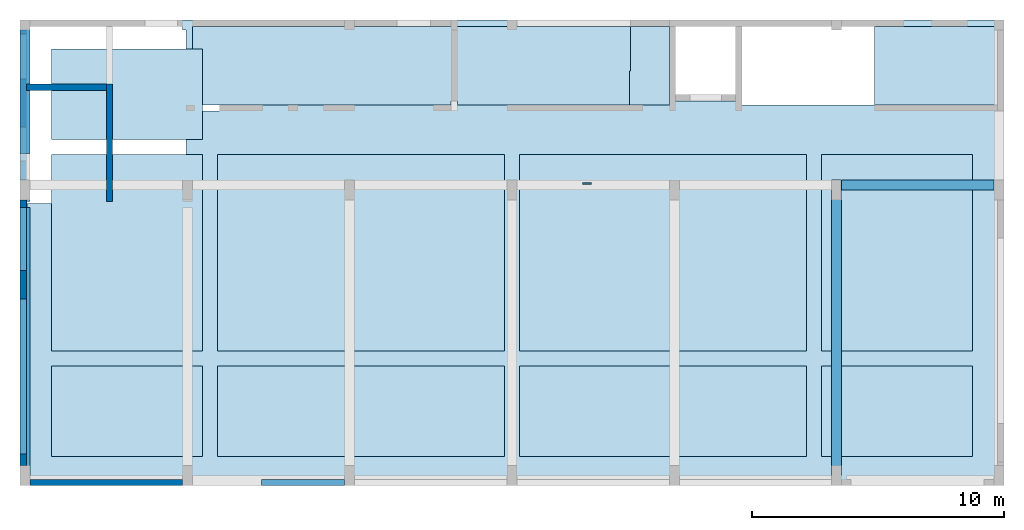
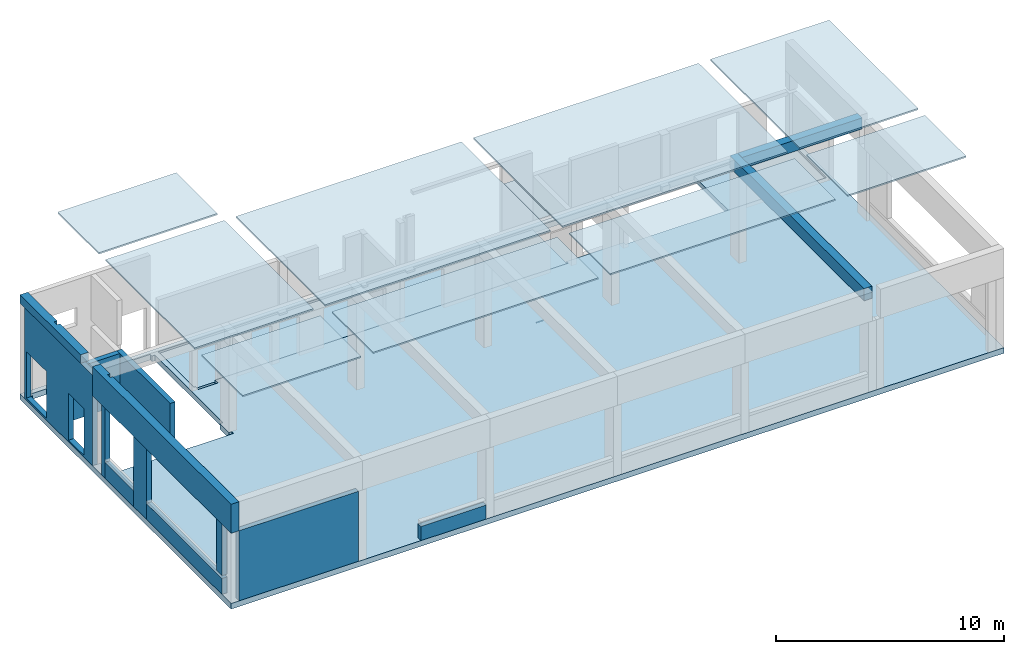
# One storey, part 2 of 3: 13 slabs, 10 walls, 5 beams, 4 openings.
"""IFC2X3 building model written with IfcOpenShell, lengths in centimetres."""

from ifc_helpers import new_model, entity, si_unit, converted_unit, derived_unit, direction, frame, frame_2d, origin, origin_2d_with_axis, place, context, subcontext, project, spatial, polyline, circle_curve, parameter, trimmed, segment, composite_curve, rectangle, outline, extrude, faceted_brep, material, layer, layer_set, layer_usage, type_object, element, save


model = new_model("IFC2X3")

# Units and contexts
model_context = context("Model", 3, precision=0.001, world=origin(), true_north=direction((6.12303176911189e-17, 1.0)))
body_context = subcontext(model_context, "Body", "Model", "MODEL_VIEW")
ifc_project = project(units=[si_unit("LENGTHUNIT", "METRE", prefix="CENTI"), si_unit("AREAUNIT", "SQUARE_METRE"), si_unit("VOLUMEUNIT", "CUBIC_METRE"), converted_unit("PLANEANGLEUNIT", "DEGREE", entity("IfcRatioMeasure", 0.0174532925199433), si_unit("PLANEANGLEUNIT", "RADIAN"), dimensions=[0, 0, 0, 0, 0, 0, 0]), si_unit("MASSUNIT", "GRAM", prefix="KILO"), derived_unit("MASSDENSITYUNIT", [(si_unit("MASSUNIT", "GRAM", prefix="KILO"), 1), (si_unit("LENGTHUNIT", "METRE"), -3)]), derived_unit("MOMENTOFINERTIAUNIT", [(si_unit("LENGTHUNIT", "METRE"), 4)]), si_unit("TIMEUNIT", "SECOND"), si_unit("FREQUENCYUNIT", "HERTZ"), si_unit("THERMODYNAMICTEMPERATUREUNIT", "DEGREE_CELSIUS"), derived_unit("THERMALTRANSMITTANCEUNIT", [(si_unit("MASSUNIT", "GRAM", prefix="KILO"), 1), (si_unit("THERMODYNAMICTEMPERATUREUNIT", "KELVIN"), -1), (si_unit("TIMEUNIT", "SECOND"), -3)]), derived_unit("VOLUMETRICFLOWRATEUNIT", [(si_unit("LENGTHUNIT", "METRE"), 3), (si_unit("TIMEUNIT", "SECOND"), -1)]), si_unit("ELECTRICCURRENTUNIT", "AMPERE"), si_unit("ELECTRICVOLTAGEUNIT", "VOLT"), si_unit("POWERUNIT", "WATT"), si_unit("FORCEUNIT", "NEWTON", prefix="KILO"), si_unit("ILLUMINANCEUNIT", "LUX"), si_unit("LUMINOUSFLUXUNIT", "LUMEN"), si_unit("LUMINOUSINTENSITYUNIT", "CANDELA"), derived_unit("USERDEFINED", [(si_unit("MASSUNIT", "GRAM", prefix="KILO"), -1), (si_unit("LENGTHUNIT", "METRE"), -2), (si_unit("TIMEUNIT", "SECOND"), 3), (si_unit("LUMINOUSFLUXUNIT", "LUMEN"), 1)]), derived_unit("LINEARVELOCITYUNIT", [(si_unit("LENGTHUNIT", "METRE"), 1), (si_unit("TIMEUNIT", "SECOND"), -1)]), si_unit("PRESSUREUNIT", "PASCAL"), derived_unit("USERDEFINED", [(si_unit("LENGTHUNIT", "METRE"), -2), (si_unit("MASSUNIT", "GRAM", prefix="KILO"), 1), (si_unit("TIMEUNIT", "SECOND"), -2)]), derived_unit("LINEARFORCEUNIT", [(si_unit("MASSUNIT", "GRAM", prefix="KILO"), 1), (si_unit("LENGTHUNIT", "METRE"), 1), (si_unit("TIMEUNIT", "SECOND"), -2), (si_unit("LENGTHUNIT", "METRE"), -1)]), derived_unit("PLANARFORCEUNIT", [(si_unit("MASSUNIT", "GRAM", prefix="KILO"), 1), (si_unit("LENGTHUNIT", "METRE"), 1), (si_unit("TIMEUNIT", "SECOND"), -2), (si_unit("LENGTHUNIT", "METRE"), -2)])], contexts=[model_context])

# Site, building, storey
site_placement = place(None, origin())
site = spatial("IfcSite", under=ifc_project, at=site_placement, Name="Default", CompositionType="ELEMENT")
building_placement = place(site_placement, origin())
building = spatial("IfcBuilding", under=site, at=building_placement, CompositionType="ELEMENT")
storey_placement = place(building_placement, frame((0.0, 0.0, -10.0)))
storey = spatial("IfcBuildingStorey", under=building, at=storey_placement, Name="Poziom 0K -0,10", CompositionType="ELEMENT", Elevation=-10.0)

# Beams
ifc_material_1 = material(Name="_Beton, C25/30")
beam_type_1 = type_object("IfcBeamType", Name="Beton-belka prostokątna:Belka żelbetowa 40x65 cm", PredefinedType="BEAM", material=ifc_material_1)
beam_1_placement = place(storey_placement, frame((290.734890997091, 295.127452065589, 475.0), z_axis=(0.0, 0.0, 1.0), x_axis=(0.0, -1.0, 0.0)))
element("IfcBeam", 1, at=beam_1_placement, inside=storey, type_object=beam_type_1, material=ifc_material_1, Name="Beton-belka prostokątna:Belka żelbetowa 40x65 cm", ObjectType="Beton-belka prostokątna:Belka żelbetowa 40x65 cm", context=body_context, shape_type="Brep", body=[
    faceted_brep([(0.0, 40.0, 65.0), (0.0, 20.0000023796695, 65.0), (0.0, 0.0, 65.0), (0.0, 0.0, 0.0), (0.0, 40.0, 0.0), (-1175.0, 0.0, 0.0), (-1175.0, 0.0, 5.0), (-1175.0, 0.0, 65.0), (-1175.0, 37.4999999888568, 65.0), (-1175.0, 37.4999999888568, 0.0), (-1095.0, 40.0, 65.0), (-1095.0, 37.4999999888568, 65.0), (-1135.0, 0.0, 65.0), (-1095.0, 0.0, 65.0), (-1092.50000009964, 0.0, 65.0), (-825.0, 0.0, 65.0), (-822.500000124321, 0.0, 65.0), (-807.500000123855, 0.0, 65.0), (-805.0, 0.0, 65.0), (-1095.0, 0.0, 0.0), (-1092.50000009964, 0.0, 0.0), (-825.0, 0.0, 0.0), (-822.500000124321, 0.0, 0.0), (-807.500000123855, 0.0, 0.0), (-805.0, 0.0, 0.0), (-1095.0, 37.4999999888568, 0.0), (-1095.0, 40.0, 0.0)], [[[0, 1, 2, 3, 4]], [[5, 6, 7, 8, 9]], [[2, 1, 0, 10, 11, 8, 7, 12, 13, 14, 15, 16, 17, 18]], [[3, 2, 18, 17, 16, 15, 14, 13, 12, 7, 6, 5, 19, 20, 21, 22, 23, 24]], [[4, 3, 24, 23, 22, 21, 20, 19, 5, 9, 25, 26]], [[0, 4, 26, 10]], [[11, 25, 9, 8]], [[25, 11, 10, 26]]]),
])
ifc_material_2 = material(Name="_Beton C30/37")
beam_type_2 = type_object("IfcBeamType", Name="Beton-belka prostokątna:Belka żelbetowa 40x155cm", PredefinedType="NOTDEFINED")
beam_2_placement = place(storey_placement, frame((-2934.26510820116, 255.127452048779, 385.0), z_axis=(0.0, 0.0, 1.0), x_axis=(0.0, -1.0, 0.0)))
element("IfcBeam", 2, at=beam_2_placement, inside=storey, type_object=beam_type_2, material=ifc_material_2, Name="Beton-belka prostokątna:Belka żelbetowa 40x155cm", ObjectType="Beton-belka prostokątna:Belka żelbetowa 40x155cm", context=body_context, shape_type="Brep", body=[
    faceted_brep([(0.0, 40.0, 155.0), (0.0, 0.0, 155.0), (0.0, 0.0, 0.0), (0.0, 40.0, 0.0), (-1215.0, 40.0, 155.0), (-1215.0, 40.0, 0.0), (-1215.0, 0.0, 0.0), (-1215.0, 0.0, 155.0), (-40.0, 40.0, 155.0), (-80.0002055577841, 40.0, 155.0), (-82.500205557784, 40.0, 155.0), (-1101.50000029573, 40.0, 155.0), (-1104.0, 40.0, 155.0), (-1104.0, 27.0000015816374, 155.0), (-1129.0, 27.0000015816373, 155.0), (-1129.0, 40.0, 155.0), (-1129.0, 40.0, 0.0), (-1129.0, 27.0000015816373, 0.0), (-1104.0, 27.0000015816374, 0.0), (-1104.0, 40.0, 0.0), (-1101.50000029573, 40.0, 0.0), (-82.5002055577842, 40.0, 0.0), (-80.0002055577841, 40.0, 0.0), (-40.0, 40.0, 0.0)], [[[0, 1, 2, 3]], [[4, 5, 6, 7]], [[1, 0, 8, 9, 10, 11, 12, 13, 14, 15, 4, 7]], [[2, 1, 7, 6]], [[3, 2, 6, 5, 16, 17, 18, 19, 20, 21, 22, 23]], [[0, 3, 23, 22, 21, 20, 19, 12, 11, 10, 9, 8]], [[14, 17, 16, 15]], [[18, 13, 12, 19]], [[17, 14, 13, 18]], [[5, 4, 15, 16]]]),
])
beam_type_3 = type_object("IfcBeamType", Name="Beton-belka prostokątna:BELKA 40x45", PredefinedType="NOTDEFINED")
beam_3_placement = place(storey_placement, frame((-2934.26510657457, 1573.89770327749, 495.0), z_axis=(0.0, 0.0, 1.0), x_axis=(0.0, 1.0, 0.0)))
element("IfcBeam", 3, at=beam_3_placement, inside=storey, type_object=beam_type_3, material=ifc_material_2, Name="Beton-belka prostokątna:BELKA 40x45", ObjectType="Beton-belka prostokątna:BELKA 40x45", context=body_context, shape_type="Brep", body=[
    faceted_brep([(531.229748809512, 0.0, 45.0), (0.0, 0.0, 45.0), (0.0, -40.0, 45.0), (251.273827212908, -40.0, 45.0), (251.273827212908, -25.0000013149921, 45.0), (276.273827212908, -25.000001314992, 45.0), (276.273827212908, -40.0, 45.0), (506.229748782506, -40.0, 45.0), (531.229748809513, -40.0, 45.0), (531.229748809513, -40.0, 0.0), (276.273827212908, -40.0, 0.0), (491.229748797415, -40.0, 0.0), (0.0, 0.0, 0.0), (491.229748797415, 0.0, 0.0), (531.229748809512, 0.0, 0.0), (276.273827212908, -25.000001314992, 0.0), (251.273827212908, -25.0000013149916, 0.0), (251.273827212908, -40.0, 0.0), (0.0, -40.0, 0.0)], [[[0, 1, 2, 3, 4, 5, 6, 7, 8]], [[9, 8, 7, 6, 10, 11]], [[12, 13, 14, 9, 11, 10, 15, 16, 17, 18]], [[1, 0, 14, 13, 12]], [[1, 12, 18, 2]], [[5, 15, 10, 6]], [[16, 4, 3, 17]], [[15, 5, 4, 16]], [[2, 18, 17, 3]], [[0, 8, 9, 14]]]),
])
beam_type_4 = type_object("IfcBeamType", Name="Beton-belka prostokątna:Belka żelbetowa 40x60cm", PredefinedType="NOTDEFINED")
beam_4_placement = place(storey_placement, frame((330.734893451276, 1430.12745208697, 480.0), z_axis=(0.0, 0.0, 1.0), x_axis=(-1.0, 0.0, 0.0)))
element("IfcBeam", 4, at=beam_4_placement, inside=storey, type_object=beam_type_4, material=ifc_material_2, Name="Beton-belka prostokątna:Belka żelbetowa 40x60cm", ObjectType="Beton-belka prostokątna:Belka żelbetowa 40x60cm", context=body_context, shape_type="Brep", body=[
    faceted_brep([(0.0, 0.0, 60.0), (0.0, -40.0, 60.0), (0.0, -40.0, 0.0), (0.0, 0.0, 0.0), (-606.0, 0.0, 60.0), (-606.0, 0.0, 0.0), (-606.0, -20.0, 0.0), (-606.0, -20.0, 60.0), (-602.499986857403, 0.0, 60.0), (-604.999986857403, 0.0, 60.0), (-604.999997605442, -20.0, 60.0), (-604.999997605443, -40.0, 60.0), (-602.499986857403, -40.0, 60.0), (-604.999997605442, -40.0, 0.0), (-602.499986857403, -40.0, 0.0), (-604.999997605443, -20.0, 0.0), (-604.999986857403, 0.0, 0.0), (-602.499986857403, 0.0, 0.0)], [[[0, 1, 2, 3]], [[4, 5, 6, 7]], [[1, 0, 8, 9, 4, 7, 10, 11, 12]], [[2, 1, 12, 11, 13, 14]], [[3, 2, 14, 13, 15, 6, 5, 16, 17]], [[0, 3, 17, 16, 5, 4, 9, 8]], [[15, 10, 7, 6]], [[10, 15, 13, 11]]]),
])
ifc_material_3 = material(Name="Stal konstrukcyjna - S235")
beam_type_5 = type_object("IfcBeamType", Name="Równoramienne L:L80x8", PredefinedType="NOTDEFINED")
beam_5_placement = place(storey_placement, frame((-663.015081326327, 1454.12745207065, 0.0), z_axis=(0.0, 0.0, 1.0), x_axis=(-1.0, 0.0, 0.0)))
element("IfcBeam", 5, at=beam_5_placement, inside=storey, type_object=beam_type_5, material=ifc_material_3, Name="Równoramienne L:L80x8", ObjectType="Równoramienne L:L80x8", context=body_context, shape_type="SweptSolid", body=[
    extrude(outline(composite_curve([segment(polyline([(2.72222222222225, -4.97777777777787), (3.02222222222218, -4.97777777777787)]), True, "CONTINUOUS"), segment(polyline([(3.02222222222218, -4.97777777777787), (3.0222222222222, 3.02222222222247)]), True, "CONTINUOUS"), segment(polyline([(3.0222222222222, 3.02222222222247), (-4.97777777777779, 3.02222222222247)]), True, "CONTINUOUS"), segment(polyline([(-4.9777777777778, 3.02222222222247), (-4.9777777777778, 2.72222222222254)]), True, "CONTINUOUS"), segment(trimmed(circle_curve(frame_2d((-4.47777777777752, 2.72222222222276), x_axis=(-1.0, 0.0)), 0.500000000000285), [parameter(0.0)], [parameter(89.9999999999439)], True, "PARAMETER"), True, "CONTINUOUS"), segment(polyline([(-4.4777777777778, 2.22222222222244), (1.22222222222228, 2.22222222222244)]), True, "CONTINUOUS"), segment(trimmed(circle_curve(frame_2d((1.22222222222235, 1.22222222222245), x_axis=(0.0, 1.0)), 0.999999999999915), [parameter(269.999999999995)], [parameter(0.0)], True, "PARAMETER"), False, "CONTINUOUS"), segment(polyline([(2.22222222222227, 1.22222222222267), (2.22222222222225, -4.47777777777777)]), True, "CONTINUOUS"), segment(trimmed(circle_curve(frame_2d((2.72222222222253, -4.47777777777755), x_axis=(-1.0, 0.0)), 0.500000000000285), [parameter(0.0)], [parameter(89.9999999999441)], True, "PARAMETER"), True, "CONTINUOUS")], self_intersect=False)), frame((0.0, -0.762222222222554, 3.02222222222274), z_axis=(1.0, 0.0, 0.0), x_axis=(0.0, 0.0, -1.0)), (0.0, 0.0, 1.0), 36.0),
])

# Slab
ifc_layer_1 = layer(ifc_material_1, 15.0)
ifc_layer_set_1 = layer_set([ifc_layer_1], Name="Strop:Spocznik gr. 15cm")
ifc_layer_usage_1 = layer_usage(ifc_layer_set_1, "AXIS3", "POSITIVE", 0.0)
slab_type_1 = type_object("IfcSlabType", Name="Strop:Spocznik gr. 15cm", PredefinedType="FLOOR", material=ifc_layer_set_1)
slab_1_placement = place(storey_placement, origin())
element("IfcSlab", 6, at=slab_1_placement, inside=storey, type_object=slab_type_1, material=ifc_layer_usage_1, Name="Strop:Spocznik gr. 15cm", ObjectType="Strop:Spocznik gr. 15cm", PredefinedType="FLOOR", context=body_context, shape_type="SweptSolid", body=[
    extrude(outline(polyline([(-148.999993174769, -54.2423317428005), (-13.9999931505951, -54.2423317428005), (-13.9999931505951, -50.3791504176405), (162.999986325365, -50.3791504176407), (162.999986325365, 104.621482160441), (-148.999993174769, 104.621482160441), (-148.999993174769, -54.2423317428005)])), frame((-458.886594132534, 1917.1274451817, 296.0), z_axis=(0.0, 0.0, -1.0), x_axis=(0.0, 1.0, 0.0)), (0.0, 0.0, 1.0), 15.0),
])

# Slab, openings
ifc_layer_2 = layer(ifc_material_1, 30.0)
ifc_layer_set_2 = layer_set([ifc_layer_2], Name="Strop:Płyta na gruncie gr. 30cm")
ifc_layer_usage_2 = layer_usage(ifc_layer_set_2, "AXIS3", "POSITIVE", 0.0)
slab_type_2 = type_object("IfcSlabType", Name="Strop:Płyta na gruncie gr. 30cm", PredefinedType="FLOOR", material=ifc_layer_set_2)
slab_2_placement = place(storey_placement, frame((-2934.26511017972, 255.127499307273, -20.0)))
slab_2 = element("IfcSlab", 7, at=slab_2_placement, inside=storey, type_object=slab_type_2, material=ifc_layer_usage_2, Name="Strop:Płyta na gruncie gr. 30cm", ObjectType="Strop:Płyta na gruncie gr. 30cm", PredefinedType="FLOOR", context=body_context, shape_type="SweptSolid", body=[
    extrude(rectangle(XDim=1849.99993219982, YDim=3910.00000796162, at=frame_2d((0.0, 0.0), x_axis=(0.0, -1.0))), frame((1955.00000398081, 924.999966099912, 30.0), z_axis=(0.0, 0.0, -1.0), x_axis=(-1.0, 0.0, 0.0)), (0.0, 0.0, 1.0), 30.0),
])
opening_1_placement = place(slab_2_placement, frame((342.500000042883, 1408.12495276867, 30.0)))
element("IfcOpeningElement", 8, at=opening_1_placement, cuts=slab_2, Name="Strop:Płyta na gruncie gr. 30cm:2", ObjectType="Opening", context=body_context, shape_type="SweptSolid", body=[
    extrude(outline(polyline([(-193.124999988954, -317.499995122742), (401.874999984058, -317.499995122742), (401.874999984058, -302.49999875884), (416.874999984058, -302.49999875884), (416.874999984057, 302.500001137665), (401.874999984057, 302.500001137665), (401.874999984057, 317.499985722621), (-193.124999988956, 317.499985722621), (-193.124999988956, 302.500003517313), (-273.124999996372, 302.500003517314), (-273.124999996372, 317.499990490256), (-288.124999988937, 317.499990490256), (-288.124999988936, -317.499993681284), (-273.124999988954, -317.499993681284), (-273.124999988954, -302.499993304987), (-193.124999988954, -302.499993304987), (-193.124999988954, -317.499995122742)])), frame((0.0, 0.0, 0.0), z_axis=(0.0, 0.0, -1.0), x_axis=(0.0, 1.0, 0.0)), (0.0, 0.0, 1.0), 30.0),
])
opening_2_placement = place(slab_2_placement, frame((2122.90001595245, 1715.37093113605, 30.0)))
element("IfcOpeningElement", 9, at=opening_2_placement, cuts=slab_2, Name="Strop:Płyta na gruncie gr. 30cm:3", ObjectType="Opening", context=body_context, shape_type="SweptSolid", body=[
    extrude(outline(polyline([(-202.37097843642, -1437.9000147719), (109.62900106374, -1437.9000147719), (109.629001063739, -832.900014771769), (94.6290216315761, -832.900014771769), (94.6290216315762, -792.900014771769), (109.629001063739, -792.900014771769), (109.629001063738, -410.399899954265), (94.629021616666, -410.399899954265), (94.6290216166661, -385.399995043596), (109.62902017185, -385.399995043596), (109.62902017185, -187.900014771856), (94.6290216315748, -187.900014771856), (94.6290216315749, -147.900014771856), (109.629001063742, -147.900014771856), (109.629001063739, 1102.09998522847), (94.6290216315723, 1102.09998522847), (94.6290216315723, 1142.09998324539), (109.629020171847, 1142.09998324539), (109.629020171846, 1747.09998883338), (94.629021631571, 1747.09998883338), (94.629021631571, 1762.09999200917), (-202.370978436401, 1762.09999200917), (-202.370978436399, 745.600105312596), (-186.806237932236, 745.600105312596), (-186.806237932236, 457.099982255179), (-202.370978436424, 457.099982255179), (-202.37097843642, -1330.40003400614), (-227.370978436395, -1330.40003400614), (-227.370978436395, -1430.40003402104), (-202.37097843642, -1430.40003402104), (-202.37097843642, -1437.9000147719)])), frame((0.0, 0.0, 0.0), z_axis=(0.0, 0.0, -1.0), x_axis=(0.0, 1.0, 0.0)), (0.0, 0.0, 1.0), 30.0),
])

# Slabs
ifc_layer_3 = layer(ifc_material_1, 25.0)
ifc_layer_set_3 = layer_set([ifc_layer_3], Name="Strop:Płyta na gruncie gr. 25cm")
ifc_layer_usage_3 = layer_usage(ifc_layer_set_3, "AXIS3", "POSITIVE", 0.0)
slab_type_3 = type_object("IfcSlabType", Name="Strop:Płyta na gruncie gr. 25cm", PredefinedType="FLOOR", material=ifc_layer_set_3)
slab_3_placement = place(storey_placement, origin())
element("IfcSlab", 10, at=slab_3_placement, inside=storey, type_object=slab_type_3, material=ifc_layer_usage_3, Name="Strop:Płyta na gruncie gr. 25cm", ObjectType="Strop:Płyta na gruncie gr. 25cm", PredefinedType="FLOOR", context=body_context, shape_type="SweptSolid", body=[
    extrude(outline(polyline([(-81.7499996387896, -993.750032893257), (230.249998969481, -993.750032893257), (230.24999896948, 901.249964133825), (-81.7499996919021, 901.249964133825), (-81.7499996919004, 58.7500819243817), (-66.749999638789, 58.7500819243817), (-66.749999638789, 33.74998683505), (-81.7499996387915, 33.74998683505), (-81.7499996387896, -993.750032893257)])), frame((-1255.51507610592, 1849.8774516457, 0.0), z_axis=(0.0, 0.0, -1.0), x_axis=(0.0, 1.0, 0.0)), (0.0, 0.0, 1.0), 25.0),
])
ifc_layer_usage_4 = layer_usage(ifc_layer_set_3, "AXIS3", "POSITIVE", 0.0)
slab_type_4 = type_object("IfcSlabType", Name="Strop:Płyta na gruncie gr. 25cm", PredefinedType="FLOOR", material=ifc_layer_set_3)
slab_4_placement = place(storey_placement, origin())
element("IfcSlab", 11, at=slab_4_placement, inside=storey, type_object=slab_type_4, material=ifc_layer_usage_4, Name="Strop:Płyta na gruncie gr. 25cm", ObjectType="Strop:Płyta na gruncie gr. 25cm", PredefinedType="FLOOR", context=body_context, shape_type="SweptSolid", body=[
    extrude(rectangle(XDim=311.999998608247, YDim=489.499901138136, at=frame_2d((-2.1316282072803e-13, 4.2632564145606e-14), x_axis=(1.0, 0.0))), frame((705.984947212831, 1924.12745131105, 0.0), z_axis=(0.0, 0.0, -1.0), x_axis=(0.0, 1.0, 0.0)), (0.0, 0.0, 1.0), 25.0),
])
ifc_material_4 = material(Name="Piasek")
ifc_layer_4 = layer(ifc_material_4, 8.0)
ifc_layer_set_4 = layer_set([ifc_layer_4], Name="Strop:Piasek gr. 8cm")
ifc_layer_usage_5 = layer_usage(ifc_layer_set_4, "AXIS3", "POSITIVE", 0.0)
slab_type_5 = type_object("IfcSlabType", Name="Strop:Piasek gr. 8cm", PredefinedType="FLOOR", material=ifc_layer_set_4)
slab_5_placement = place(storey_placement, origin())
element("IfcSlab", 12, at=slab_5_placement, inside=storey, type_object=slab_type_5, material=ifc_layer_usage_5, Name="Strop:Piasek gr. 8cm", ObjectType="Strop:Piasek gr. 8cm", PredefinedType="FLOOR", context=body_context, shape_type="SweptSolid", body=[
    extrude(rectangle(XDim=780.000000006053, YDim=600.000000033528, at=frame_2d((2.27373675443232e-13, 0.0), x_axis=(1.0, 0.0))), frame((550.734889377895, 1180.75245204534, 1008.0), z_axis=(0.0, 0.0, -1.0), x_axis=(0.0, 1.0, 0.0)), (0.0, 0.0, 1.0), 7.99999999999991),
])
ifc_layer_usage_6 = layer_usage(ifc_layer_set_4, "AXIS3", "POSITIVE", 0.0)
slab_type_6 = type_object("IfcSlabType", Name="Strop:Piasek gr. 8cm", PredefinedType="FLOOR", material=ifc_layer_set_4)
slab_6_placement = place(storey_placement, origin())
element("IfcSlab", 13, at=slab_6_placement, inside=storey, type_object=slab_type_6, material=ifc_layer_usage_6, Name="Strop:Piasek gr. 8cm", ObjectType="Strop:Piasek gr. 8cm", PredefinedType="FLOOR", context=body_context, shape_type="SweptSolid", body=[
    extrude(rectangle(XDim=359.999999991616, YDim=600.000000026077, at=origin_2d_with_axis()), frame((550.734889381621, 550.752452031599, 1008.0), z_axis=(0.0, 0.0, -1.0), x_axis=(0.0, 1.0, 0.0)), (0.0, 0.0, 1.0), 7.99999999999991),
])
ifc_layer_usage_7 = layer_usage(ifc_layer_set_4, "AXIS3", "POSITIVE", 0.0)
slab_type_7 = type_object("IfcSlabType", Name="Strop:Piasek gr. 8cm", PredefinedType="FLOOR", material=ifc_layer_set_4)
slab_7_placement = place(storey_placement, origin())
element("IfcSlab", 14, at=slab_7_placement, inside=storey, type_object=slab_type_7, material=ifc_layer_usage_7, Name="Strop:Piasek gr. 8cm", ObjectType="Strop:Piasek gr. 8cm", PredefinedType="FLOOR", context=body_context, shape_type="SweptSolid", body=[
    extrude(rectangle(XDim=780.000000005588, YDim=1139.9999999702, at=frame_2d((-1.13686837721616e-13, 0.0), x_axis=(1.0, 0.0))), frame((-379.265110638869, 1180.75245204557, 1008.0), z_axis=(0.0, 0.0, -1.0), x_axis=(0.0, 1.0, 0.0)), (0.0, 0.0, 1.0), 7.99999999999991),
])
ifc_layer_usage_8 = layer_usage(ifc_layer_set_4, "AXIS3", "POSITIVE", 0.0)
slab_type_8 = type_object("IfcSlabType", Name="Strop:Piasek gr. 8cm", PredefinedType="FLOOR", material=ifc_layer_set_4)
slab_8_placement = place(storey_placement, origin())
element("IfcSlab", 15, at=slab_8_placement, inside=storey, type_object=slab_type_8, material=ifc_layer_usage_8, Name="Strop:Piasek gr. 8cm", ObjectType="Strop:Piasek gr. 8cm", PredefinedType="FLOOR", context=body_context, shape_type="SweptSolid", body=[
    extrude(rectangle(XDim=359.999999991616, YDim=1139.9999999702, at=origin_2d_with_axis()), frame((-379.265110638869, 550.752452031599, 1008.0), z_axis=(0.0, 0.0, -1.0), x_axis=(0.0, 1.0, 0.0)), (0.0, 0.0, 1.0), 7.99999999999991),
])
ifc_layer_usage_9 = layer_usage(ifc_layer_set_4, "AXIS3", "POSITIVE", 0.0)
slab_type_9 = type_object("IfcSlabType", Name="Strop:Piasek gr. 8cm", PredefinedType="FLOOR", material=ifc_layer_set_4)
slab_9_placement = place(storey_placement, origin())
element("IfcSlab", 16, at=slab_9_placement, inside=storey, type_object=slab_type_9, material=ifc_layer_usage_9, Name="Strop:Piasek gr. 8cm", ObjectType="Strop:Piasek gr. 8cm", PredefinedType="FLOOR", context=body_context, shape_type="SweptSolid", body=[
    extrude(rectangle(XDim=780.000000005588, YDim=1139.99999994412, at=frame_2d((-1.13686837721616e-13, -1.13686837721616e-13), x_axis=(1.0, 0.0))), frame((-1579.2651105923, 1180.75245204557, 1008.0), z_axis=(0.0, 0.0, -1.0), x_axis=(0.0, 1.0, 0.0)), (0.0, 0.0, 1.0), 7.99999999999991),
])
ifc_layer_usage_10 = layer_usage(ifc_layer_set_4, "AXIS3", "POSITIVE", 0.0)
slab_type_10 = type_object("IfcSlabType", Name="Strop:Piasek gr. 8cm", PredefinedType="FLOOR", material=ifc_layer_set_4)
slab_10_placement = place(storey_placement, origin())
element("IfcSlab", 17, at=slab_10_placement, inside=storey, type_object=slab_type_10, material=ifc_layer_usage_10, Name="Strop:Piasek gr. 8cm", ObjectType="Strop:Piasek gr. 8cm", PredefinedType="FLOOR", context=body_context, shape_type="SweptSolid", body=[
    extrude(rectangle(XDim=359.999999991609, YDim=1139.99999994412, at=frame_2d((-5.6843418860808e-14, -1.13686837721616e-13), x_axis=(1.0, 0.0))), frame((-1579.2651105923, 550.752452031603, 1008.0), z_axis=(0.0, 0.0, -1.0), x_axis=(0.0, 1.0, 0.0)), (0.0, 0.0, 1.0), 7.99999999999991),
])
ifc_layer_usage_11 = layer_usage(ifc_layer_set_4, "AXIS3", "POSITIVE", 0.0)
slab_type_11 = type_object("IfcSlabType", Name="Strop:Piasek gr. 8cm", PredefinedType="FLOOR", material=ifc_layer_set_4)
slab_11_placement = place(storey_placement, origin())
element("IfcSlab", 18, at=slab_11_placement, inside=storey, type_object=slab_type_11, material=ifc_layer_usage_11, Name="Strop:Piasek gr. 8cm", ObjectType="Strop:Piasek gr. 8cm", PredefinedType="FLOOR", context=body_context, shape_type="SweptSolid", body=[
    extrude(rectangle(XDim=780.000000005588, YDim=599.999999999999, at=origin_2d_with_axis()), frame((-2509.26511062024, 1180.75245204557, 1008.0), z_axis=(0.0, 0.0, -1.0), x_axis=(0.0, 1.0, 0.0)), (0.0, 0.0, 1.0), 7.99999999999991),
])
ifc_layer_usage_12 = layer_usage(ifc_layer_set_4, "AXIS3", "POSITIVE", 0.0)
slab_type_12 = type_object("IfcSlabType", Name="Strop:Piasek gr. 8cm", PredefinedType="FLOOR", material=ifc_layer_set_4)
slab_12_placement = place(storey_placement, origin())
element("IfcSlab", 19, at=slab_12_placement, inside=storey, type_object=slab_type_12, material=ifc_layer_usage_12, Name="Strop:Piasek gr. 8cm", ObjectType="Strop:Piasek gr. 8cm", PredefinedType="FLOOR", context=body_context, shape_type="SweptSolid", body=[
    extrude(rectangle(XDim=360.0, YDim=600.0, at=frame_2d((0.0, 2.27373675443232e-13), x_axis=(1.0, 0.0))), frame((-2509.26511062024, 1810.7524520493, 1008.0), z_axis=(0.0, 0.0, -1.0), x_axis=(0.0, 1.0, 0.0)), (0.0, 0.0, 1.0), 7.99999999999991),
])
ifc_layer_usage_13 = layer_usage(ifc_layer_set_4, "AXIS3", "POSITIVE", 0.0)
slab_type_13 = type_object("IfcSlabType", Name="Strop:Piasek gr. 8cm", PredefinedType="FLOOR", material=ifc_layer_set_4)
slab_13_placement = place(storey_placement, origin())
element("IfcSlab", 20, at=slab_13_placement, inside=storey, type_object=slab_type_13, material=ifc_layer_usage_13, Name="Strop:Piasek gr. 8cm", ObjectType="Strop:Piasek gr. 8cm", PredefinedType="FLOOR", context=body_context, shape_type="SweptSolid", body=[
    extrude(rectangle(XDim=359.999999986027, YDim=599.999999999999, at=origin_2d_with_axis()), frame((-2509.26511062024, 550.752452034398, 1008.0), z_axis=(0.0, 0.0, -1.0), x_axis=(0.0, 1.0, 0.0)), (0.0, 0.0, 1.0), 7.99999999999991),
])

# Wall, openings
ifc_layer_5 = layer(ifc_material_2, 25.0)
ifc_layer_set_5 = layer_set([ifc_layer_5], Name="Ściana podstawowa:Ściana żelbetowa gr. 25cm")
ifc_layer_usage_14 = layer_usage(ifc_layer_set_5, "AXIS2", "NEGATIVE", 12.5)
wall_type_1 = type_object("IfcWallType", Name="Ściana podstawowa:Ściana żelbetowa gr. 25cm", PredefinedType="STANDARD", material=ifc_layer_set_5)
wall_1_placement = place(storey_placement, frame((-2921.76510525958, 2065.12745206, 10.0), z_axis=(0.0, 0.0, 1.0), x_axis=(0.0, -1.0, 0.0)))
wall_1 = element("IfcWallStandardCase", 21, at=wall_1_placement, inside=storey, type_object=wall_type_1, material=ifc_layer_usage_14, Name="Ściana podstawowa:Ściana żelbetowa gr. 25cm", ObjectType="Ściana podstawowa:Ściana żelbetowa gr. 25cm", context=body_context, shape_type="SweptSolid", body=[
    extrude(rectangle(XDim=594.999999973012, YDim=25.0000000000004, at=frame_2d((297.499999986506, 5.32907051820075e-15), x_axis=(-1.0, 0.0))), origin(), (0.0, 0.0, 1.0), 484.999999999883),
])
opening_3_placement = place(wall_1_placement, origin())
element("IfcOpeningElement", 22, at=opening_3_placement, cuts=wall_1, Name="Ściana podstawowa:Ściana żelbetowa gr. 25cm", ObjectType="Opening", context=body_context, shape_type="SweptSolid", body=[
    extrude(rectangle(XDim=250.0, YDim=179.0, at=frame_2d((0.0, 0.0), x_axis=(0.0, 1.0))), frame((104.500000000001, -164.9, 135.0), z_axis=(0.0, 1.0, 0.0), x_axis=(1.0, 0.0, 0.0)), (0.0, 0.0, 1.0), 304.8),
])
opening_4_placement = place(wall_1_placement, origin())
element("IfcOpeningElement", 23, at=opening_4_placement, cuts=wall_1, Name="Ściana podstawowa:Ściana żelbetowa gr. 25cm", ObjectType="Opening", context=body_context, shape_type="SweptSolid", body=[
    extrude(rectangle(XDim=250.0, YDim=134.0, at=frame_2d((0.0, 0.0), x_axis=(0.0, 1.0))), frame((453.0, -164.9, 135.0), z_axis=(0.0, 1.0, 0.0), x_axis=(1.0, 0.0, 0.0)), (0.0, 0.0, 1.0), 304.8),
])

# Walls
ifc_layer_usage_15 = layer_usage(ifc_layer_set_5, "AXIS2", "NEGATIVE", 12.5)
wall_2_placement = place(storey_placement, frame((-2921.76510381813, 1390.12745208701, 10.0), z_axis=(0.0, 0.0, 1.0), x_axis=(0.0, -1.0, 0.0)))
element("IfcWallStandardCase", 24, at=wall_2_placement, inside=storey, type_object=wall_type_1, material=ifc_layer_usage_15, Name="Ściana podstawowa:Ściana żelbetowa gr. 25cm", ObjectType="Ściana podstawowa:Ściana żelbetowa gr. 25cm", context=body_context, shape_type="SweptSolid", body=[
    extrude(rectangle(XDim=30.9999997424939, YDim=25.0000000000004, at=frame_2d((15.4999998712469, 0.0), x_axis=(-1.0, 0.0))), origin(), (0.0, 0.0, 1.0), 374.999999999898),
])
ifc_layer_usage_16 = layer_usage(ifc_layer_set_5, "AXIS2", "NEGATIVE", 12.5)
wall_3_placement = place(storey_placement, frame((-2921.76510381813, 1109.62747120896, 10.0), z_axis=(0.0, 0.0, 1.0), x_axis=(0.0, -1.0, 0.0)))
element("IfcWallStandardCase", 25, at=wall_3_placement, inside=storey, type_object=wall_type_1, material=ifc_layer_usage_16, Name="Ściana podstawowa:Ściana żelbetowa gr. 25cm", ObjectType="Ściana podstawowa:Ściana żelbetowa gr. 25cm", context=body_context, shape_type="SweptSolid", body=[
    extrude(rectangle(XDim=113.500020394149, YDim=25.0000000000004, at=frame_2d((56.7500101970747, 0.0), x_axis=(-1.0, 0.0))), origin(), (0.0, 0.0, 1.0), 374.999999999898),
])
ifc_material_5 = material(Name="Pustak ceramiczny, klasa 15")
ifc_layer_6 = layer(ifc_material_5, 25.0)
ifc_layer_set_6 = layer_set([ifc_layer_6], Name="Ściana podstawowa:Ściana murowana gr. 25cm")
ifc_layer_usage_17 = layer_usage(ifc_layer_set_6, "AXIS2", "POSITIVE", -12.5)
wall_type_2 = type_object("IfcWallType", Name="Ściana podstawowa:Ściana murowana gr. 25cm", PredefinedType="STANDARD", material=ifc_layer_set_6)
wall_4_placement = place(storey_placement, frame((-2921.76510381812, 1359.12745234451, 10.0), z_axis=(0.0, 0.0, 1.0), x_axis=(0.0, -1.0, 0.0)))
element("IfcWallStandardCase", 26, at=wall_4_placement, inside=storey, type_object=wall_type_2, material=ifc_layer_usage_17, Name="Ściana podstawowa:Ściana murowana gr. 25cm", ObjectType="Ściana podstawowa:Ściana murowana gr. 25cm", context=body_context, shape_type="SweptSolid", body=[
    extrude(rectangle(XDim=249.49998113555, YDim=25.0000000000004, at=frame_2d((124.749990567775, -5.32907051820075e-15), x_axis=(-1.0, 0.0))), origin(), (0.0, 0.0, 1.0), 85.0),
])
ifc_layer_usage_18 = layer_usage(ifc_layer_set_6, "AXIS2", "POSITIVE", -12.5)
wall_5_placement = place(storey_placement, frame((-2894.26510344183, 267.627499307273, 10.0)))
element("IfcWallStandardCase", 27, at=wall_5_placement, inside=storey, type_object=wall_type_2, material=ifc_layer_usage_18, Name="Ściana podstawowa:Ściana murowana gr. 25cm", ObjectType="Ściana podstawowa:Ściana murowana gr. 25cm", context=body_context, shape_type="SweptSolid", body=[
    extrude(rectangle(XDim=604.999996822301, YDim=24.9999999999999, at=frame_2d((302.49999841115, 0.0), x_axis=(-1.0, 0.0))), origin(), (0.0, 0.0, 1.0), 374.999999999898),
])
ifc_layer_usage_19 = layer_usage(ifc_layer_set_6, "AXIS2", "POSITIVE", -12.5)
wall_6_placement = place(storey_placement, frame((-1974.26510661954, 267.62765760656, 10.0)))
element("IfcWallStandardCase", 28, at=wall_6_placement, inside=storey, type_object=wall_type_2, material=ifc_layer_usage_19, Name="Ściana podstawowa:Ściana murowana gr. 25cm", ObjectType="Ściana podstawowa:Ściana murowana gr. 25cm", context=body_context, shape_type="SweptSolid", body=[
    extrude(rectangle(XDim=330.0, YDim=24.9999999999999, at=frame_2d((165.0, -9.76996261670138e-15), x_axis=(-1.0, 0.0))), origin(), (0.0, 0.0, 1.0), 74.9999999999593),
])
ifc_layer_usage_20 = layer_usage(ifc_layer_set_6, "AXIS2", "NEGATIVE", 12.5)
wall_7_placement = place(storey_placement, frame((-2578.26511650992, 1384.1715304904, 0.0), z_axis=(0.0, 0.0, 1.0), x_axis=(0.0, 1.0, 0.0)))
element("IfcWallStandardCase", 29, at=wall_7_placement, inside=storey, type_object=wall_type_2, material=ifc_layer_usage_20, Name="Ściana podstawowa:Ściana murowana gr. 25cm", ObjectType="Ściana podstawowa:Ściana murowana gr. 25cm", context=body_context, shape_type="SweptSolid", body=[
    extrude(rectangle(XDim=466.0, YDim=25.0000000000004, at=frame_2d((233.0, -8.88178419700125e-15), x_axis=(-1.0, 0.0))), origin(), (0.0, 0.0, 1.0), 275.0),
])
ifc_layer_usage_21 = layer_usage(ifc_layer_set_6, "AXIS2", "NEGATIVE", 12.5)
wall_8_placement = place(storey_placement, frame((-2590.76511650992, 1837.52745205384, 0.0), z_axis=(0.0, 0.0, 1.0), x_axis=(-1.0, 0.0, 0.0)))
element("IfcWallStandardCase", 30, at=wall_8_placement, inside=storey, type_object=wall_type_2, material=ifc_layer_usage_21, Name="Ściana podstawowa:Ściana murowana gr. 25cm", ObjectType="Ściana podstawowa:Ściana murowana gr. 25cm", context=body_context, shape_type="SweptSolid", body=[
    extrude(rectangle(XDim=318.49998874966, YDim=24.9999999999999, at=frame_2d((159.24999437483, 0.0), x_axis=(-1.0, 0.0))), origin(), (0.0, 0.0, 1.0), 275.0),
])
ifc_layer_usage_22 = layer_usage(ifc_layer_set_6, "AXIS2", "POSITIVE", -12.5)
wall_9_placement = place(storey_placement, frame((-2921.76510381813, 996.127450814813, 10.0), z_axis=(0.0, 0.0, 1.0), x_axis=(0.0, -1.0, 0.0)))
element("IfcWallStandardCase", 31, at=wall_9_placement, inside=storey, type_object=wall_type_2, material=ifc_layer_usage_22, Name="Ściana podstawowa:Ściana murowana gr. 25cm", ObjectType="Ściana podstawowa:Ściana murowana gr. 25cm", context=body_context, shape_type="SweptSolid", body=[
    extrude(rectangle(XDim=660.99979320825, YDim=25.0000000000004, at=frame_2d((330.499896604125, 0.0), x_axis=(-1.0, 0.0))), origin(), (0.0, 0.0, 1.0), 85.0),
])
ifc_layer_usage_23 = layer_usage(ifc_layer_set_6, "AXIS2", "POSITIVE", -12.5)
wall_10_placement = place(storey_placement, frame((-2921.76510381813, 381.127452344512, 110.0), z_axis=(0.0, 0.0, 1.0), x_axis=(0.0, -1.0, 0.0)))
element("IfcWallStandardCase", 32, at=wall_10_placement, inside=storey, type_object=wall_type_2, material=ifc_layer_usage_23, Name="Ściana podstawowa:Ściana murowana gr. 25cm", ObjectType="Ściana podstawowa:Ściana murowana gr. 25cm", context=body_context, shape_type="SweptSolid", body=[
    extrude(rectangle(XDim=45.9997947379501, YDim=25.0000000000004, at=frame_2d((22.999897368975, 0.0), x_axis=(-1.0, 0.0))), origin(), (0.0, 0.0, 1.0), 274.999999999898),
])

save(model, "model.ifc")
